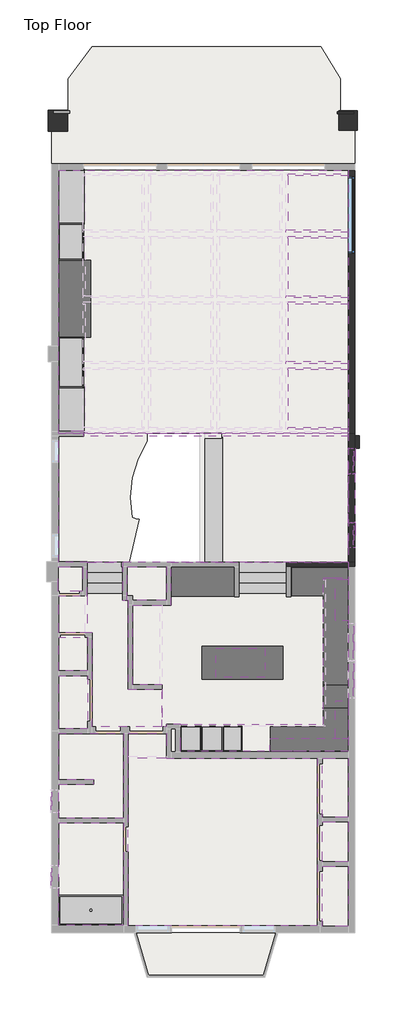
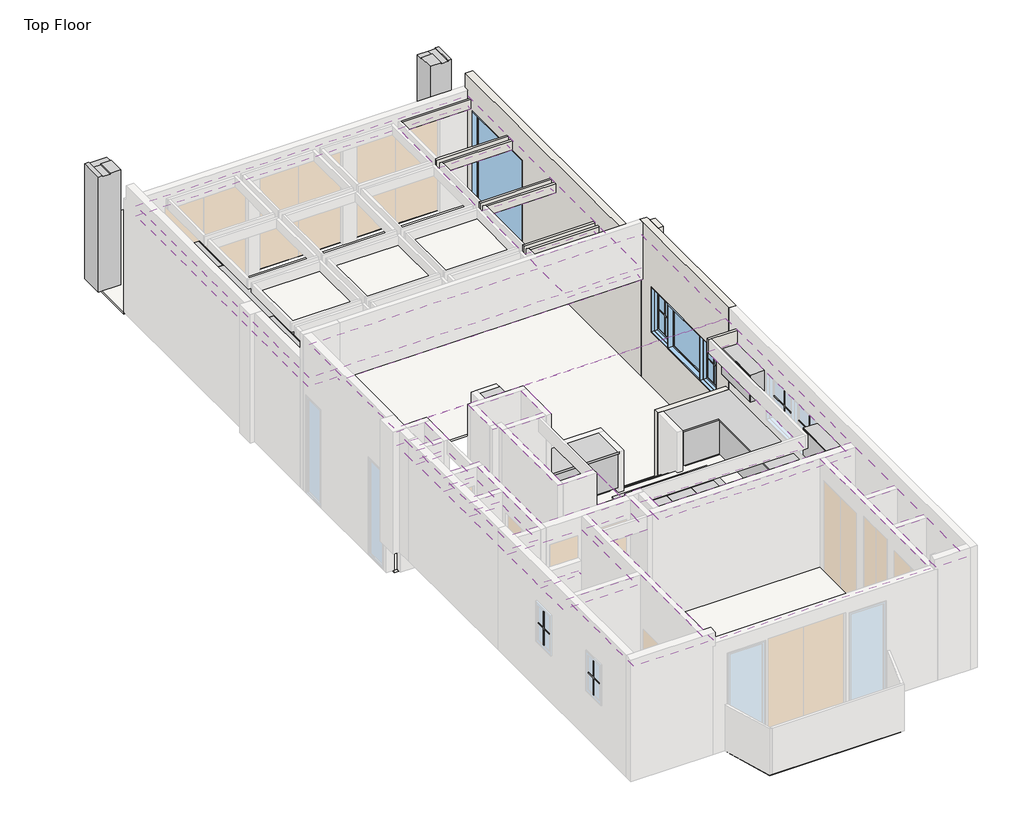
# One storey, part 3 of 3: 21 coverings, 16 walls, 15 proxies, 8 furniture elements, 4 slabs, 4 windows, 2 columns, 2 stair flights, 1 flow terminal.
"""IFC4 building model written with IfcOpenShell, lengths in millimetres."""

from ifc_helpers import new_model, si_unit, point, frame, frame_2d, origin, place, context, project, spatial, polyline, circle_curve, trimmed, segment, composite_curve, outline, extrude, faceted_brep, transform, mapped, element, save
from components import countertop_rectangle_shape_base_default_1_742723e2, countertop_rectangle_shape_base_default_1_a7bd4f21, countertop_rectangle_shape_base_default_1_6818d92f, countertop_rectangle_shape_base_default_1_848e0110, countertop_rectangle_shape_base_default_1_92f88228, default_1_19c50d5e, fireplace_default_1_2b660472, muntin_pattern_2x2_muntin_pattern_2x2_64ee3ad5, muntin_pattern_2x2_muntin_pattern_2x2_6aee78e4, muntin_pattern_2x2_muntin_pattern_2x2_3aa5df5f, muntin_pattern_2x2_muntin_pattern_2x2_c450b4c2, muntin_pattern_2x2_muntin_pattern_2x2_5e50c346, muntin_pattern_2x2_muntin_pattern_2x2_3e21365d, other_under_default_1_f665ae8c, bath_shower_basin_rectangular_default_1_3c0a1b38, tall_cabinet_double_door_4_default_1_916294eb, tall_cabinet_double_door_4_default_1_13441492, furniture_af66c6f2, furniture_41f67e13, furniture_ce4d81af, furniture_f03ed958, furniture_9a3261b4, furniture_3d8370f3, stair_flight_50mm_tread_25mm_nosing_13mm_riser_6de5a301, stair_flight_50mm_tread_25mm_nosing_13mm_riser_3adddc06, default_1_c63afb6d, default_1_3ebde05d, default_1_07854831, default_1_82db3804

model = new_model("IFC4")

# Units and contexts
model_context = context("Model", 3, world=origin())
ifc_project = project(units=[si_unit("LENGTHUNIT", "METRE", prefix="MILLI")], contexts=[model_context])

# Site, building, storey
site = spatial("IfcSite", under=ifc_project)
building = spatial("IfcBuilding", under=site)
storey = spatial("IfcBuildingStorey", under=building, Name="Top Floor", Elevation=2743.2)

# Proxies
placement = place(None, origin())
countertop_rectangle_shape_base_default_1_shape = countertop_rectangle_shape_base_default_1_742723e2(model_context)
element("IfcBuildingElementProxy", 1, Name="Countertop- Rectangle shape base : Default 1", ObjectType="Countertop- Rectangle shape base : Default 1", at=placement, inside=storey, context=model_context, shape_type="MappedRepresentation", body=[
    mapped(countertop_rectangle_shape_base_default_1_shape, transform((-3197.225, 2781.3, 3505.2), x_axis=(1.0, 0.0, 0.0), y_axis=(0.0, 1.0, 0.0), z_axis=(0.0, 0.0, 1.0))),
])
countertop_rectangle_shape_base_default_1_2_shape = countertop_rectangle_shape_base_default_1_a7bd4f21(model_context)
element("IfcBuildingElementProxy", 2, Name="Countertop- Rectangle shape base : Default 1", ObjectType="Countertop- Rectangle shape base : Default 1", at=placement, inside=storey, context=model_context, shape_type="MappedRepresentation", body=[
    mapped(countertop_rectangle_shape_base_default_1_2_shape, transform((-1800.225, 4378.325, 2743.2), x_axis=(0.0, 1.0, 0.0), y_axis=(-1.0, 0.0, 0.0), z_axis=(0.0, 0.0, 1.0))),
])
countertop_rectangle_shape_base_default_1_3_shape = countertop_rectangle_shape_base_default_1_6818d92f(model_context)
element("IfcBuildingElementProxy", 3, Name="Countertop- Rectangle shape base : Default 1", ObjectType="Countertop- Rectangle shape base : Default 1", at=placement, inside=storey, context=model_context, shape_type="MappedRepresentation", body=[
    mapped(countertop_rectangle_shape_base_default_1_3_shape, transform((-2228.85, 803.275, 3505.2), x_axis=(1.0, 0.0, 0.0), y_axis=(0.0, 1.0, 0.0), z_axis=(0.0, 0.0, 1.0))),
])
countertop_rectangle_shape_base_default_1_4_shape = countertop_rectangle_shape_base_default_1_848e0110(model_context)
element("IfcBuildingElementProxy", 4, Name="Countertop- Rectangle shape base : Default 1", ObjectType="Countertop- Rectangle shape base : Default 1", at=placement, inside=storey, context=model_context, shape_type="MappedRepresentation", body=[
    mapped(countertop_rectangle_shape_base_default_1_4_shape, transform((-5264.15, 11760.2, 2743.2), x_axis=(0.0, 1.0, 0.0), y_axis=(-1.0, 0.0, 0.0), z_axis=(0.0, 0.0, 1.0))),
])
countertop_rectangle_shape_base_default_1_5_shape = countertop_rectangle_shape_base_default_1_92f88228(model_context)
element("IfcBuildingElementProxy", 5, Name="Countertop- Rectangle shape base : Default 1", ObjectType="Countertop- Rectangle shape base : Default 1", at=placement, inside=storey, context=model_context, shape_type="MappedRepresentation", body=[
    mapped(countertop_rectangle_shape_base_default_1_5_shape, transform((-5264.15, 6584.95, 2743.2), x_axis=(0.0, 1.0, 0.0), y_axis=(-1.0, 0.0, 0.0), z_axis=(0.0, 0.0, 1.0))),
])
element("IfcBuildingElementProxy", 6, Name="Countertop- U Shape base : Default 1", ObjectType="Countertop- U Shape base : Default 1", at=placement, inside=storey, context=model_context, shape_type="SweptSolid", body=[
    extrude(outline(polyline([(1136.65, -977.9), (-800.7463, -977.9), (-800.7463, -361.95), (482.6, -361.95), (482.6, 2794.0), (-285.75, 2794.0), (-285.75, 3517.9), (1136.65, 3517.9), (1136.65, -977.9)])), frame((0.0, 0.0, 4381.5), z_axis=(0.0, 0.0, 1.0), x_axis=(1.0, 0.0, 0.0)), (0.0, 0.0, 1.0), 38.1),
    extrude(outline(polyline([(-680.0963, -457.3545837), (603.25, -457.3545837), (603.25, 2914.65), (-165.1, 2914.65), (-165.1, 3397.25), (996.95, 3397.25), (996.95, -857.25), (-680.0963, -857.25), (-680.0963, -457.3545837)])), frame((0.0, 0.0, 3505.2), z_axis=(0.0, 0.0, 1.0), x_axis=(1.0, 0.0, 0.0)), (0.0, 0.0, 1.0), 101.6),
    extrude(outline(polyline([(501.65, 2813.05), (-266.7, 2813.05), (-266.7, 3498.85), (1098.55, 3498.85), (1098.55, -958.85), (-781.6963, -958.85), (-781.6963, -381.0), (501.65, -381.0), (501.65, 2813.05)])), frame((0.0, 0.0, 3606.8), z_axis=(0.0, 0.0, 1.0), x_axis=(1.0, 0.0, 0.0)), (0.0, 0.0, 1.0), 774.7),
])
default_1_shape = default_1_19c50d5e(model_context)
element("IfcBuildingElementProxy", 7, Name="Stovetop 8 : Default 1", ObjectType="Stovetop 8 : Default 1", at=placement, inside=storey, context=model_context, shape_type="MappedRepresentation", body=[
    mapped(default_1_shape, transform((-1517.687089, 1532.558106, 3505.2), x_axis=(1.0, 0.0, 0.0), y_axis=(0.0, 1.0, 0.0), z_axis=(0.0, 0.0, 1.0))),
])
fireplace_default_1_shape = fireplace_default_1_2b660472(model_context)
element("IfcBuildingElementProxy", 8, Name="Fireplace : Default 1", ObjectType="Fireplace : Default 1", at=placement, inside=storey, context=model_context, shape_type="MappedRepresentation", body=[
    mapped(fireplace_default_1_shape, transform((-6049.95, 10042.525, 2743.2), x_axis=(0.0, 1.0, 0.0), y_axis=(-1.0, 0.0, 0.0), z_axis=(0.0, 0.0, 1.0))),
])
muntin_pattern_2x2_muntin_pattern_2x2_shape = muntin_pattern_2x2_muntin_pattern_2x2_64ee3ad5(model_context)
element("IfcBuildingElementProxy", 9, Name="Muntin Pattern_2x2 : Muntin Pattern_2x2", ObjectType="Muntin Pattern_2x2 : Muntin Pattern_2x2", at=placement, inside=storey, context=model_context, shape_type="MappedRepresentation", body=[
    mapped(muntin_pattern_2x2_muntin_pattern_2x2_shape, transform((1260.475, 4287.2421875, 4032.25), x_axis=(0.0, 1.0, 0.0), y_axis=(-1.0, 0.0, 0.0), z_axis=(0.0, 0.0, 1.0))),
])
muntin_pattern_2x2_muntin_pattern_2x2_2_shape = muntin_pattern_2x2_muntin_pattern_2x2_6aee78e4(model_context)
element("IfcBuildingElementProxy", 10, Name="Muntin Pattern_2x2 : Muntin Pattern_2x2", ObjectType="Muntin Pattern_2x2 : Muntin Pattern_2x2", at=placement, inside=storey, context=model_context, shape_type="MappedRepresentation", body=[
    mapped(muntin_pattern_2x2_muntin_pattern_2x2_2_shape, transform((-6105.525, -4025.9, 4641.85), x_axis=(0.0, 1.0, 0.0), y_axis=(-1.0, 0.0, 0.0), z_axis=(0.0, 0.0, 1.0))),
])
muntin_pattern_2x2_muntin_pattern_2x2_3_shape = muntin_pattern_2x2_muntin_pattern_2x2_3aa5df5f(model_context)
element("IfcBuildingElementProxy", 11, Name="Muntin Pattern_2x2 : Muntin Pattern_2x2", ObjectType="Muntin Pattern_2x2 : Muntin Pattern_2x2", at=placement, inside=storey, context=model_context, shape_type="MappedRepresentation", body=[
    mapped(muntin_pattern_2x2_muntin_pattern_2x2_3_shape, transform((-6105.525, -2184.4, 4641.85), x_axis=(0.0, -1.0, 0.0), y_axis=(1.0, 0.0, 0.0), z_axis=(0.0, 0.0, 1.0))),
])
muntin_pattern_2x2_muntin_pattern_2x2_4_shape = muntin_pattern_2x2_muntin_pattern_2x2_c450b4c2(model_context)
element("IfcBuildingElementProxy", 12, Name="Muntin Pattern_2x2 : Muntin Pattern_2x2", ObjectType="Muntin Pattern_2x2 : Muntin Pattern_2x2", at=placement, inside=storey, context=model_context, shape_type="MappedRepresentation", body=[
    mapped(muntin_pattern_2x2_muntin_pattern_2x2_4_shape, transform((1260.475, 6092.825, 4032.25), x_axis=(0.0, -1.0, 0.0), y_axis=(1.0, 0.0, 0.0), z_axis=(0.0, 0.0, 1.0))),
])
muntin_pattern_2x2_muntin_pattern_2x2_5_shape = muntin_pattern_2x2_muntin_pattern_2x2_5e50c346(model_context)
element("IfcBuildingElementProxy", 13, Name="Muntin Pattern_2x2 : Muntin Pattern_2x2", ObjectType="Muntin Pattern_2x2 : Muntin Pattern_2x2", at=placement, inside=storey, context=model_context, shape_type="MappedRepresentation", body=[
    mapped(muntin_pattern_2x2_muntin_pattern_2x2_5_shape, transform((1260.475, 770.1359375, 4641.85), x_axis=(0.0, 1.0, 0.0), y_axis=(-1.0, 0.0, 0.0), z_axis=(0.0, 0.0, 1.0))),
])
muntin_pattern_2x2_muntin_pattern_2x2_6_shape = muntin_pattern_2x2_muntin_pattern_2x2_3e21365d(model_context)
element("IfcBuildingElementProxy", 14, Name="Muntin Pattern_2x2 : Muntin Pattern_2x2", ObjectType="Muntin Pattern_2x2 : Muntin Pattern_2x2", at=placement, inside=storey, context=model_context, shape_type="MappedRepresentation", body=[
    mapped(muntin_pattern_2x2_muntin_pattern_2x2_6_shape, transform((1260.475, 1684.5359375, 4641.85), x_axis=(0.0, -1.0, 0.0), y_axis=(1.0, 0.0, 0.0), z_axis=(0.0, 0.0, 1.0))),
])
other_under_default_1_shape = other_under_default_1_f665ae8c(model_context)
element("IfcBuildingElementProxy", 15, Name="Other_Under : Default 1", ObjectType="Other_Under : Default 1", at=placement, inside=storey, context=model_context, shape_type="MappedRepresentation", body=[
    mapped(other_under_default_1_shape, transform((801.65, 732.0588824, 3505.2), x_axis=(1.0, 0.0, 0.0), y_axis=(0.0, 1.0, 0.0), z_axis=(0.0, 0.0, 1.0))),
])

# Columns
element("IfcColumn", 16, ObjectType="Rectangular Column 3D : Default 1", at=placement, inside=storey, context=model_context, shape_type="Brep", body=[
    faceted_brep([(-5727.3558119, 14116.05, 5334.0), (-5727.3558119, 14471.65, 5334.0), (-5949.95, 14471.65, 5334.0), (-5949.95, 14116.05, 5334.0), (-5727.3558119, 14116.05, 2743.2), (-6203.95, 14116.05, 2743.2), (-6203.95, 14624.05, 2743.2), (-5727.3558119, 14624.05, 2743.2), (-5727.3558119, 14611.35, 2743.2), (-6064.25, 14611.35, 2743.2), (-6064.25, 14560.55, 2743.2), (-5727.3558119, 14560.55, 2743.2), (-6203.95, 14624.05, 5334.0), (-6115.05, 14624.05, 5334.0), (-6115.05, 14624.05, 5308.6), (-5727.3558119, 14624.05, 5308.6), (-6203.95, 14116.05, 5334.0), (-5949.95, 14116.05, 5308.6), (-6115.05, 14116.05, 5308.6), (-6115.05, 14116.05, 5334.0), (-5727.3558119, 14560.55, 3962.4), (-5727.3558119, 14611.35, 3962.4), (-5727.3558119, 14471.65, 5308.6), (-5949.95, 14471.65, 5308.6), (-6115.05, 14471.65, 5308.6), (-6115.05, 14471.65, 5334.0), (-6064.25, 14560.55, 3962.4), (-6064.25, 14611.35, 3962.4)], [[[0, 1, 2, 3]], [[4, 5, 6, 7, 8, 9, 10, 11]], [[7, 6, 12, 13, 14, 15]], [[16, 12, 6, 5]], [[5, 4, 0, 3, 17, 18, 19, 16]], [[0, 4, 11, 20, 21, 8, 7, 15, 22, 1]], [[1, 22, 23, 2]], [[14, 24, 23, 22, 15]], [[24, 14, 13, 25]], [[23, 17, 3, 2]], [[18, 24, 25, 19]], [[17, 23, 24, 18]], [[12, 16, 19, 25, 13]], [[10, 26, 20, 11]], [[27, 9, 8, 21]], [[26, 27, 21, 20]], [[26, 10, 9, 27]]]),
])
element("IfcColumn", 17, ObjectType="Rectangular Column 3D : Default 1", at=placement, inside=storey, context=model_context, shape_type="Brep", body=[
    faceted_brep([(1336.278125, 14147.8, 5334.0), (1336.278125, 14616.8265686, 5334.0), (1270.0, 14616.8265686, 5334.0), (1270.0, 14147.8, 5334.0), (1336.278125, 14616.8265686, 2743.2), (1336.278125, 14147.8, 2743.2), (882.65, 14147.8, 2743.2), (882.65, 14541.5, 2743.2), (1244.6, 14541.5, 2743.2), (1244.6, 14592.3, 2743.2), (882.65, 14592.3, 2743.2), (882.65, 14616.8265686, 2743.2), (882.65, 14616.8265686, 5308.6), (1117.6, 14616.8265686, 5308.6), (1270.0, 14616.8265686, 5308.6), (882.65, 14147.8, 5334.0), (882.65, 14471.65, 5334.0), (882.65, 14471.65, 5308.6), (882.65, 14592.3, 3962.4), (882.65, 14541.5, 3962.4), (1270.0, 14147.8, 5308.6), (1117.6, 14147.8, 5308.6), (1117.6, 14147.8, 5334.0), (1117.6, 14471.65, 5308.6), (1117.6, 14471.65, 5334.0), (1244.6, 14541.5, 3962.4), (1244.6, 14592.3, 3962.4)], [[[0, 1, 2, 3]], [[4, 5, 6, 7, 8, 9, 10, 11]], [[4, 11, 12, 13, 14, 2, 1]], [[6, 15, 16, 17, 12, 11, 10, 18, 19, 7]], [[6, 5, 0, 3, 20, 21, 22, 15]], [[1, 0, 5, 4]], [[14, 20, 3, 2]], [[22, 21, 23, 24]], [[20, 14, 13, 23, 21]], [[23, 17, 16, 24]], [[17, 23, 13, 12]], [[25, 8, 7, 19]], [[9, 26, 18, 10]], [[26, 25, 19, 18]], [[8, 25, 26, 9]], [[16, 15, 22, 24]]]),
])

# Coverings
element("IfcCovering", 18, ObjectType="1/2\" Ceiling", at=placement, inside=storey, context=model_context, shape_type="SweptSolid", body=[
    extrude(outline(polyline([(-5949.95, 13169.9), (1117.6, 13169.9), (1117.6, 6762.75), (-5949.95, 6762.75), (-5949.95, 13169.9)])), frame((0.0, 0.0, 5181.6), z_axis=(0.0, 0.0, 1.0), x_axis=(1.0, 0.0, 0.0)), (0.0, 0.0, 1.0), 12.7),
])
element("IfcCovering", 19, ObjectType="1/2\" Ceiling", at=placement, inside=storey, context=model_context, shape_type="SweptSolid", body=[
    extrude(outline(polyline([(-5949.95, 6762.75), (1117.6, 6762.75), (1117.6, 3632.2), (-5949.95, 3632.2), (-5949.95, 6762.75)])), frame((0.0, 0.0, 5943.6), z_axis=(0.0, 0.0, 1.0), x_axis=(1.0, 0.0, 0.0)), (0.0, 0.0, 1.0), 12.7),
])
element("IfcCovering", 20, ObjectType="1/2\" Ceiling", at=placement, inside=storey, context=model_context, shape_type="SweptSolid", body=[
    extrude(outline(polyline([(-4387.85, 3632.2), (-4387.85, 2698.75), (-4254.5, 2698.75), (-4254.5, 533.4), (-3429.0, 533.4), (-3429.0, -374.65), (-5124.45, -374.65), (-5124.45, 1917.7), (-5949.95, 1917.7), (-5949.95, 2813.05), (-5251.45, 2813.05), (-5251.45, 3632.2), (-4387.85, 3632.2)])), frame((0.0, 0.0, 5943.6), z_axis=(0.0, 0.0, 1.0), x_axis=(1.0, 0.0, 0.0)), (0.0, 0.0, 1.0), 12.7),
])
element("IfcCovering", 21, ObjectType="1/2\" Ceiling", at=placement, inside=storey, context=model_context, shape_type="SweptSolid", body=[
    extrude(outline(polyline([(-3206.75, 3632.2), (1117.6, 3632.2), (1117.6, -977.9), (-2978.15, -977.9), (-2978.15, -311.15), (-3321.05, -311.15), (-3321.05, -374.65), (-3429.0, -374.65), (-3429.0, 647.7), (-4140.2, 647.7), (-4140.2, 2584.45), (-3206.75, 2584.45), (-3206.75, 3632.2)])), frame((0.0, 0.0, 5943.6), z_axis=(0.0, 0.0, 1.0), x_axis=(1.0, 0.0, 0.0)), (0.0, 0.0, 1.0), 12.7),
])
element("IfcCovering", 22, ObjectType="1/2\" Ceiling", at=placement, inside=storey, context=model_context, shape_type="SweptSolid", body=[
    extrude(outline(polyline([(-4273.55, 2698.75), (-4273.55, 3517.9), (-3321.05, 3517.9), (-3321.05, 2698.75), (-4273.55, 2698.75)])), frame((0.0, 0.0, 5943.6), z_axis=(0.0, 0.0, 1.0), x_axis=(1.0, 0.0, 0.0)), (0.0, 0.0, 1.0), 12.7),
])
element("IfcCovering", 23, ObjectType="1/2\" Ceiling", at=placement, inside=storey, context=model_context, shape_type="SweptSolid", body=[
    extrude(outline(polyline([(-5962.65, 2927.35), (-5962.65, 3524.25), (-5365.75, 3524.25), (-5365.75, 2927.35), (-5962.65, 2927.35)])), frame((0.0, 0.0, 5943.6), z_axis=(0.0, 0.0, 1.0), x_axis=(1.0, 0.0, 0.0)), (0.0, 0.0, 1.0), 12.7),
])
element("IfcCovering", 24, ObjectType="1/2\" Ceiling", at=placement, inside=storey, context=model_context, shape_type="SweptSolid", body=[
    extrude(outline(polyline([(-5238.75, 984.25), (-5949.95, 984.25), (-5949.95, 1803.4), (-5238.75, 1803.4), (-5238.75, 984.25)])), frame((0.0, 0.0, 5943.6), z_axis=(0.0, 0.0, 1.0), x_axis=(1.0, 0.0, 0.0)), (0.0, 0.0, 1.0), 12.7),
])
element("IfcCovering", 25, ObjectType="1/2\" Ceiling", at=placement, inside=storey, context=model_context, shape_type="SweptSolid", body=[
    extrude(outline(polyline([(-5238.75, -425.45), (-5949.95, -425.45), (-5949.95, 869.95), (-5238.75, 869.95), (-5238.75, -425.45)])), frame((0.0, 0.0, 5943.6), z_axis=(0.0, 0.0, 1.0), x_axis=(1.0, 0.0, 0.0)), (0.0, 0.0, 1.0), 12.7),
])
element("IfcCovering", 26, ObjectType="1/2\" Ceiling", at=placement, inside=storey, context=model_context, shape_type="SweptSolid", body=[
    extrude(outline(polyline([(-4368.8, -2603.5), (-5949.95, -2603.5), (-5949.95, -1778.0), (-5092.7, -1778.0), (-5092.7, -1663.7), (-5949.95, -1663.7), (-5949.95, -539.75), (-5181.6, -539.75), (-4368.8, -539.75), (-4368.8, -2603.5)])), frame((0.0, 0.0, 5638.8), z_axis=(0.0, 0.0, 1.0), x_axis=(1.0, 0.0, 0.0)), (0.0, 0.0, 1.0), 12.7),
])
element("IfcCovering", 27, ObjectType="1/2\" Ceiling", at=placement, inside=storey, context=model_context, shape_type="SweptSolid", body=[
    extrude(outline(polyline([(-5949.95, -5207.0), (-5949.95, -2717.8), (-4368.8, -2717.8), (-4368.8, -5207.0), (-5949.95, -5207.0)])), frame((0.0, 0.0, 5943.6), z_axis=(0.0, 0.0, 1.0), x_axis=(1.0, 0.0, 0.0)), (0.0, 0.0, 1.0), 12.7),
])
element("IfcCovering", 28, ObjectType="1/2\" Ceiling", at=placement, inside=storey, context=model_context, shape_type="SweptSolid", body=[
    extrude(outline(polyline([(-3321.05, -539.75), (-3321.05, -1143.0), (361.95, -1143.0), (361.95, -5219.7), (-4254.5, -5219.7), (-4254.5, -539.75), (-3321.05, -539.75)])), frame((0.0, 0.0, 5943.6), z_axis=(0.0, 0.0, 1.0), x_axis=(1.0, 0.0, 0.0)), (0.0, 0.0, 1.0), 12.7),
])
element("IfcCovering", 29, ObjectType="1/2\" Ceiling", at=placement, inside=storey, context=model_context, shape_type="SweptSolid", body=[
    extrude(outline(polyline([(476.25, -1143.0), (1117.6, -1143.0), (1117.6, -2578.1), (476.25, -2578.1), (476.25, -1143.0)])), frame((0.0, 0.0, 5943.6), z_axis=(0.0, 0.0, 1.0), x_axis=(1.0, 0.0, 0.0)), (0.0, 0.0, 1.0), 12.7),
])
element("IfcCovering", 30, ObjectType="1/2\" Ceiling", at=placement, inside=storey, context=model_context, shape_type="SweptSolid", body=[
    extrude(outline(polyline([(1117.6, -2692.4), (1117.6, -3657.6), (476.25, -3657.6), (476.25, -2692.4), (1117.6, -2692.4)])), frame((0.0, 0.0, 5943.6), z_axis=(0.0, 0.0, 1.0), x_axis=(1.0, 0.0, 0.0)), (0.0, 0.0, 1.0), 12.7),
])
element("IfcCovering", 31, ObjectType="1/2\" Ceiling", at=placement, inside=storey, context=model_context, shape_type="SweptSolid", body=[
    extrude(outline(polyline([(1117.6, -5232.4), (476.25, -5232.4), (476.25, -3771.9), (1117.6, -3771.9), (1117.6, -5232.4)])), frame((0.0, 0.0, 5943.6), z_axis=(0.0, 0.0, 1.0), x_axis=(1.0, 0.0, 0.0)), (0.0, 0.0, 1.0), 12.7),
])
element("IfcCovering", 32, ObjectType="1/2\" Ceiling", at=placement, inside=storey, context=model_context, shape_type="SweptSolid", body=[
    extrude(outline(polyline([(-3429.0, 2584.45), (-3429.0, 647.7), (-4140.2, 647.7), (-4140.2, 2584.45), (-3429.0, 2584.45)])), frame((0.0, 0.0, 5638.8), z_axis=(0.0, 0.0, 1.0), x_axis=(1.0, 0.0, 0.0)), (0.0, 0.0, 1.0), 12.7),
    extrude(outline(polyline([(-2978.15, -311.15), (501.65, -311.15), (501.65, 3254.6188419), (1117.6, 3254.6188419), (1117.6, -977.9), (-2978.15, -977.9), (-2978.15, -311.15)])), frame((0.0, 0.0, 5638.8), z_axis=(0.0, 0.0, 1.0), x_axis=(1.0, 0.0, 0.0)), (0.0, 0.0, 1.0), 12.7),
])
element("IfcCovering", 33, ObjectType="1/2\" Ceiling", at=placement, inside=storey, context=model_context, shape_type="SweptSolid", body=[
    extrude(outline(polyline([(1117.6, 8312.15), (-355.6, 8312.15), (-355.6, 6915.15), (1117.6, 6915.15), (1117.6, 6699.25), (-5340.35, 6699.25), (-5340.35, 6813.55), (-5949.95, 6813.55), (-5949.95, 13169.9), (1117.6, 13169.9), (1117.6, 13036.55), (-355.6, 13036.55), (-355.6, 11715.75), (1117.6, 11715.75), (1117.6, 11512.55), (-355.6, 11512.55), (-355.6, 10115.55), (1117.6, 10115.55), (1117.6, 9912.35), (-355.6, 9912.35), (-355.6, 8515.35), (1117.6, 8515.35), (1117.6, 8312.15)]), holes=[polyline([(-3911.6, 6915.15), (-3911.6, 8312.15), (-5295.9, 8312.15), (-5295.9, 6915.15), (-3911.6, 6915.15)]), polyline([(-3911.6, 8515.35), (-3911.6, 9912.35), (-5295.9, 9912.35), (-5295.9, 8515.35), (-3911.6, 8515.35)]), polyline([(-3911.6, 10115.55), (-3911.6, 11512.55), (-5295.9, 11512.55), (-5295.9, 10115.55), (-3911.6, 10115.55)]), polyline([(-3911.6, 11715.75), (-3911.6, 13036.55), (-5295.9, 13036.55), (-5295.9, 11715.75), (-3911.6, 11715.75)]), polyline([(-558.8, 8312.15), (-2032.0, 8312.15), (-2032.0, 6915.15), (-558.8, 6915.15), (-558.8, 8312.15)]), polyline([(-2235.2, 8312.15), (-3708.4, 8312.15), (-3708.4, 6915.15), (-2235.2, 6915.15), (-2235.2, 8312.15)]), polyline([(-558.8, 13036.55), (-2032.0, 13036.55), (-2032.0, 11715.75), (-558.8, 11715.75), (-558.8, 13036.55)]), polyline([(-2235.2, 13036.55), (-3708.4, 13036.55), (-3708.4, 11715.75), (-2235.2, 11715.75), (-2235.2, 13036.55)]), polyline([(-558.8, 9912.35), (-2032.0, 9912.35), (-2032.0, 8515.35), (-558.8, 8515.35), (-558.8, 9912.35)]), polyline([(-558.8, 11512.55), (-2032.0, 11512.55), (-2032.0, 10115.55), (-558.8, 10115.55), (-558.8, 11512.55)]), polyline([(-2235.2, 9912.35), (-3708.4, 9912.35), (-3708.4, 8515.35), (-2235.2, 8515.35), (-2235.2, 9912.35)]), polyline([(-2235.2, 11512.55), (-3708.4, 11512.55), (-3708.4, 10115.55), (-2235.2, 10115.55), (-2235.2, 11512.55)])]), frame((0.0, 0.0, 4953.0), z_axis=(0.0, 0.0, 1.0), x_axis=(1.0, 0.0, 0.0)), (0.0, 0.0, 1.0), 12.7),
])
element("IfcCovering", 34, ObjectType="1/2\" Ceiling", at=placement, inside=storey, context=model_context, shape_type="SweptSolid", body=[
    extrude(outline(polyline([(-4254.5, -1143.0), (-4254.5, -539.75), (-3321.05, -539.75), (-3321.05, -1143.0), (-4254.5, -1143.0)])), frame((0.0, 0.0, 5638.8), z_axis=(0.0, 0.0, 1.0), x_axis=(1.0, 0.0, 0.0)), (0.0, 0.0, 1.0), 12.7),
])
element("IfcCovering", 35, ObjectType="1/2\" Ceiling", at=placement, inside=storey, context=model_context, shape_type="SweptSolid", body=[
    extrude(outline(polyline([(-5949.95, 2813.05), (-5251.45, 2813.05), (-5251.45, 1917.7), (-5949.95, 1917.7), (-5949.95, 2813.05)])), frame((0.0, 0.0, 5638.8), z_axis=(0.0, 0.0, 1.0), x_axis=(1.0, 0.0, 0.0)), (0.0, 0.0, 1.0), 12.7),
])
element("IfcCovering", 36, ObjectType="1/2\" Ceiling", at=placement, inside=storey, context=model_context, shape_type="SweptSolid", body=[
    extrude(outline(polyline([(-5238.75, -425.45), (-5949.95, -425.45), (-5949.95, 869.95), (-5238.75, 869.95), (-5238.75, -425.45)])), frame((0.0, 0.0, 5638.8), z_axis=(0.0, 0.0, 1.0), x_axis=(1.0, 0.0, 0.0)), (0.0, 0.0, 1.0), 12.7),
])
element("IfcCovering", 37, ObjectType="1/2\" Ceiling", at=placement, inside=storey, context=model_context, shape_type="SweptSolid", body=[
    extrude(outline(polyline([(-5238.75, 984.25), (-5949.95, 984.25), (-5949.95, 1803.4), (-5238.75, 1803.4), (-5238.75, 984.25)])), frame((0.0, 0.0, 5638.8), z_axis=(0.0, 0.0, 1.0), x_axis=(1.0, 0.0, 0.0)), (0.0, 0.0, 1.0), 12.7),
])
element("IfcCovering", 38, ObjectType="1/2\" Ceiling", at=placement, inside=storey, context=model_context, shape_type="SweptSolid", body=[
    extrude(outline(polyline([(-5962.65, 2927.35), (-5962.65, 3524.25), (-5365.75, 3524.25), (-5365.75, 2927.35), (-5962.65, 2927.35)])), frame((0.0, 0.0, 5638.8), z_axis=(0.0, 0.0, 1.0), x_axis=(1.0, 0.0, 0.0)), (0.0, 0.0, 1.0), 12.7),
])

# Flow terminal
bath_shower_basin_rectangular_default_1_shape = bath_shower_basin_rectangular_default_1_3c0a1b38(model_context)
element("IfcFlowTerminal", 39, ObjectType="Bath- Shower - Basin Rectangular : Default 1", at=placement, inside=storey, context=model_context, shape_type="MappedRepresentation", body=[
    mapped(bath_shower_basin_rectangular_default_1_shape, transform((-5159.375, -4838.7, 3505.2), x_axis=(1.0, 0.0, 0.0), y_axis=(0.0, 1.0, 0.0), z_axis=(0.0, 0.0, 1.0))),
])

# Furniture
tall_cabinet_double_door_4_default_1_shape = tall_cabinet_double_door_4_default_1_916294eb(model_context)
element("IfcFurniture", 40, ObjectType="Tall Cabinet-Double Door(4) : Default 1", at=placement, inside=storey, context=model_context, shape_type="MappedRepresentation", body=[
    mapped(tall_cabinet_double_door_4_default_1_shape, transform((-5949.95, 8474.3872951, 2743.2), x_axis=(0.0, 1.0, 0.0), y_axis=(-1.0, 0.0, 0.0), z_axis=(0.0, 0.0, 1.0))),
])
tall_cabinet_double_door_4_default_1_2_shape = tall_cabinet_double_door_4_default_1_13441492(model_context)
element("IfcFurniture", 41, ObjectType="Tall Cabinet-Double Door(4) : Default 1", at=placement, inside=storey, context=model_context, shape_type="MappedRepresentation", body=[
    mapped(tall_cabinet_double_door_4_default_1_2_shape, transform((-5949.95, 11408.0872951, 2743.2), x_axis=(0.0, 1.0, 0.0), y_axis=(-1.0, 0.0, 0.0), z_axis=(0.0, 0.0, 1.0))),
])
furniture_shape = furniture_af66c6f2(model_context)
element("IfcFurniture", 42, ObjectType="Tall Cabinet-Single Door(2) : 15\"", at=placement, inside=storey, context=model_context, shape_type="MappedRepresentation", body=[
    mapped(furniture_shape, transform((-2703.2363572, -977.9, 3505.2), x_axis=(-1.0, 0.0, 0.0), y_axis=(0.0, -1.0, 0.0), z_axis=(0.0, 0.0, 1.0))),
])
furniture_2_shape = furniture_41f67e13(model_context)
element("IfcFurniture", 43, ObjectType="Tall Cabinet-Single Door(2) : 15\"", at=placement, inside=storey, context=model_context, shape_type="MappedRepresentation", body=[
    mapped(furniture_2_shape, transform((-1689.5219928, -977.9, 3505.2), x_axis=(-1.0, 0.0, 0.0), y_axis=(0.0, -1.0, 0.0), z_axis=(0.0, 0.0, 1.0))),
])
furniture_3_shape = furniture_ce4d81af(model_context)
element("IfcFurniture", 44, ObjectType="Tall Cabinet-Single Door(2) : 15\"", at=placement, inside=storey, context=model_context, shape_type="MappedRepresentation", body=[
    mapped(furniture_3_shape, transform((-2185.7113572, -977.9, 3505.2), x_axis=(-1.0, 0.0, 0.0), y_axis=(0.0, -1.0, 0.0), z_axis=(0.0, 0.0, 1.0))),
])
furniture_4_shape = furniture_f03ed958(model_context)
element("IfcFurniture", 45, ObjectType="Upper Cabinet-Single Door-Wall : 12\"", at=placement, inside=storey, context=model_context, shape_type="MappedRepresentation", body=[
    mapped(furniture_4_shape, transform((858.8214773, -1060.45, 3505.2), x_axis=(1.0, 0.0, 0.0), y_axis=(0.0, 1.0, 0.0), z_axis=(0.0, 0.0, 1.0))),
])
furniture_5_shape = furniture_9a3261b4(model_context)
element("IfcFurniture", 46, ObjectType="Upper Cabinet-Single Door-Wall : 12\"", at=placement, inside=storey, context=model_context, shape_type="MappedRepresentation", body=[
    mapped(furniture_5_shape, transform((1193.8, -4.1364016, 3505.2), x_axis=(0.0, 1.0, 0.0), y_axis=(-1.0, 0.0, 0.0), z_axis=(0.0, 0.0, 1.0))),
])
furniture_6_shape = furniture_3d8370f3(model_context)
element("IfcFurniture", 47, ObjectType="Upper Cabinet-Single Door-Wall : 12\"", at=placement, inside=storey, context=model_context, shape_type="MappedRepresentation", body=[
    mapped(furniture_6_shape, transform((1193.8, 2996.2476791, 3505.2), x_axis=(0.0, 1.0, 0.0), y_axis=(-1.0, 0.0, 0.0), z_axis=(0.0, 0.0, 1.0))),
])

# Slabs
element("IfcSlab", 48, ObjectType="Ledge - 2\"", at=placement, inside=storey, context=model_context, shape_type="SweptSolid", body=[
    extrude(outline(polyline([(-5251.45, 3524.25), (-5251.45, 2857.5), (-4387.85, 2857.5), (-4387.85, 3524.25), (-1663.7, 3524.25), (-1663.7, 2857.4922485), (-285.75, 2857.4922485), (-285.75, 3524.25), (1117.6, 3524.25), (1117.6, -5232.4), (-5962.65, -5232.4), (-5962.65, 3524.25), (-5251.45, 3524.25)])), frame((0.0, 0.0, 3454.4), z_axis=(0.0, 0.0, 1.0), x_axis=(1.0, 0.0, 0.0)), (0.0, 0.0, 1.0), 50.8),
])
element("IfcSlab", 49, ObjectType="Ledge - 2\"", at=placement, inside=storey, context=model_context, shape_type="SweptSolid", body=[
    extrude(outline(composite_curve([segment(polyline([(-400.05, 3632.2), (-400.05, 3607.2), (-1549.4, 3607.2), (-1549.4, 3632.2), (-2501.9, 3632.2), (-2501.9, 6762.75), (-3790.95, 6762.75), (-3790.95, 6573.6458)]), True, "CONTINUOUS"), segment(trimmed(circle_curve(frame_2d((-1676.1882666, 5197.2214255)), 2523.2441911), [point((-3790.95, 6573.6458))], [point((-4155.6426, 4729.175))], True, "CARTESIAN"), True, "CONTINUOUS"), segment(trimmed(circle_curve(frame_2d((-3923.0824091, 5122.5445613)), 456.9724872), [point((-4155.6426, 4729.175))], [point((-3983.2523, 4669.5507))], True, "CARTESIAN"), True, "CONTINUOUS"), segment(polyline([(-3983.2523, 4669.5507), (-4228.0305152, 3632.2), (-4387.85, 3632.2), (-4387.85, 3607.2), (-5251.45, 3607.2), (-5251.45, 3632.2), (-5949.95, 3632.2), (-5949.95, 13169.9), (1117.6, 13169.9), (1117.6, 3632.2), (-400.05, 3632.2)]), True, "CONTINUOUS")], self_intersect=False)), frame((0.0, 0.0, 2692.4), z_axis=(0.0, 0.0, 1.0), x_axis=(1.0, 0.0, 0.0)), (0.0, 0.0, 1.0), 50.8),
])
element("IfcSlab", 50, ObjectType="Ledge - 2\"", at=placement, inside=storey, context=model_context, shape_type="SweptSolid", body=[
    extrude(outline(polyline([(-6115.05, 14611.35), (-5708.65, 14611.35), (-5708.65, 15398.75), (-5130.8, 16179.8), (438.15, 16179.8), (920.75, 15398.75), (920.75, 14592.3), (1270.0, 14592.3), (1270.0, 13322.3), (-6115.05, 13322.3), (-6115.05, 14611.35)])), frame((0.0, 0.0, 2692.4), z_axis=(0.0, 0.0, 1.0), x_axis=(1.0, 0.0, 0.0)), (0.0, 0.0, 1.0), 50.8),
])
element("IfcSlab", 51, ObjectType="Ledge - 2\"", at=placement, inside=storey, context=model_context, shape_type="SweptSolid", body=[
    extrude(outline(polyline([(-3752.05625, -6426.2), (-4056.85625, -5384.8), (-656.0301739, -5384.8), (-960.8301739, -6426.2), (-3752.05625, -6426.2)])), frame((0.0, 0.0, 3454.4), z_axis=(0.0, 0.0, 1.0), x_axis=(1.0, 0.0, 0.0)), (0.0, 0.0, 1.0), 50.8),
])

# Stair flights
stair_flight_50mm_tread_25mm_nosing_13mm_riser_shape = stair_flight_50mm_tread_25mm_nosing_13mm_riser_6de5a301(model_context)
element("IfcStairFlight", 52, ObjectType="50mm Tread 25mm Nosing 13mm Riser", at=placement, inside=storey, context=model_context, shape_type="MappedRepresentation", body=[
    mapped(stair_flight_50mm_tread_25mm_nosing_13mm_riser_shape, transform((0.0, 0.0, 0.0), x_axis=(1.0, 0.0, 0.0), y_axis=(0.0, 1.0, 0.0), z_axis=(0.0, 0.0, 1.0))),
])
stair_flight_50mm_tread_25mm_nosing_13mm_riser_2_shape = stair_flight_50mm_tread_25mm_nosing_13mm_riser_3adddc06(model_context)
element("IfcStairFlight", 53, ObjectType="50mm Tread 25mm Nosing 13mm Riser", at=placement, inside=storey, context=model_context, shape_type="MappedRepresentation", body=[
    mapped(stair_flight_50mm_tread_25mm_nosing_13mm_riser_2_shape, transform((0.0, 0.0, 0.0), x_axis=(1.0, 0.0, 0.0), y_axis=(0.0, 1.0, 0.0), z_axis=(0.0, 0.0, 1.0))),
])

# Walls
element("IfcWall", 54, ObjectType="Planitar - Generic 6\"", at=placement, inside=storey, context=model_context, shape_type="Brep", body=[
    faceted_brep([(1117.6, 6756.4, 5638.8), (1117.6, 6813.55, 5638.8), (1117.6, 13246.1, 5638.8), (1117.6, 13246.1, 5308.6), (1117.6, 13169.9, 5308.6), (1117.6, 13169.9, 2743.2), (1117.6, 13022.2625, 2743.2), (1117.6, 13022.2625, 4953.0), (1117.6, 11142.6625, 4953.0), (1117.6, 11142.6625, 2743.2), (1117.6, 6756.4, 2743.2), (1270.0, 13246.1, 5638.8), (1270.0, 6813.55, 5638.8), (1270.0, 6756.4, 5638.8), (1270.0, 6756.4, 2743.2), (1270.0, 11142.6625, 2743.2), (1270.0, 11142.6625, 4953.0), (1270.0, 13022.2625, 4953.0), (1270.0, 13022.2625, 2743.2), (1270.0, 13169.9, 2743.2), (1270.0, 13169.9, 5308.6), (1270.0, 13246.1, 5308.6)], [[[0, 1, 2, 3, 4, 5, 6, 7, 8, 9, 10]], [[11, 12, 13, 14, 15, 16, 17, 18, 19, 20, 21]], [[5, 19, 18, 6]], [[14, 10, 9, 15]], [[2, 1, 0, 13, 12, 11]], [[17, 7, 6, 18]], [[7, 17, 16, 8]], [[8, 16, 15, 9]], [[10, 14, 13, 0]], [[2, 11, 21, 3]], [[3, 21, 20, 4]], [[19, 5, 4, 20]]]),
])
element("IfcWall", 55, ObjectType="Planitar - Generic 4 1/2\"", at=placement, inside=storey, context=model_context, shape_type="Brep", body=[
    faceted_brep([(1104.9, 3632.2, 2743.2), (-400.05, 3632.2, 2743.2), (-400.05, 3632.2, 4419.6), (1117.6, 3632.2, 4419.6), (1270.0, 3632.2, 4419.6), (1270.0, 3632.2, 3505.2), (1104.9, 3632.2, 3505.2), (1104.9, 3517.9, 2743.2), (1104.9, 3517.9, 3505.2), (1117.6, 3517.9, 3505.2), (1270.0, 3517.9, 3505.2), (1270.0, 3517.9, 4419.6), (1117.6, 3517.9, 4419.6), (-285.75, 3517.9, 4419.6), (-400.05, 3517.9, 4419.6), (-400.05, 3517.9, 2883.7), (-400.05, 3517.9, 2743.2), (1104.9, 3581.4, 2743.2), (1270.0, 3524.25, 4419.6), (1270.0, 3575.05, 4419.6)], [[[0, 1, 2, 3, 4, 5, 6]], [[7, 8, 9, 10, 11, 12, 13, 14, 15, 16]], [[1, 0, 17, 7, 16]], [[4, 3, 2, 14, 13, 12, 11, 18, 19]], [[2, 1, 16, 15, 14]], [[0, 6, 8, 7, 17]], [[5, 4, 19, 18, 11, 10]], [[5, 10, 9, 8, 6]]]),
])
element("IfcWall", 56, ObjectType="Planitar - Generic 2\"", at=placement, inside=storey, context=model_context, shape_type="Brep", body=[
    faceted_brep([(1117.6, 3254.6188419, 5638.8), (501.65, 3254.6188419, 5638.8), (501.65, 3254.6188419, 5943.6), (1117.6, 3254.6188419, 5943.6), (1117.6, 3203.8188419, 5638.8), (1117.6, 3203.8188419, 5943.6), (552.45, 3203.8188419, 5943.6), (501.65, 3203.8188419, 5943.6), (501.65, 3203.8188419, 5638.8), (552.45, 3203.8188419, 5638.8)], [[[0, 1, 2, 3]], [[4, 5, 6, 7, 8, 9]], [[1, 0, 4, 9, 8]], [[3, 2, 7, 6, 5]], [[0, 3, 5, 4]], [[2, 1, 8, 7]]]),
])
element("IfcWall", 57, ObjectType="Planitar - Generic 2\"", at=placement, inside=storey, context=model_context, shape_type="SweptSolid", body=[
    extrude(outline(polyline([(1117.6, 6864.35), (-355.6, 6864.35), (-355.6, 6915.15), (1117.6, 6915.15), (1117.6, 6864.35)])), frame((0.0, 0.0, 4965.7), z_axis=(0.0, 0.0, 1.0), x_axis=(1.0, 0.0, 0.0)), (0.0, 0.0, 1.0), 210.6599992),
])
element("IfcWall", 58, ObjectType="Planitar - Generic 2\"", at=placement, inside=storey, context=model_context, shape_type="SweptSolid", body=[
    extrude(outline(polyline([(1117.6, 8312.15), (-355.6, 8312.15), (-355.6, 8362.95), (1117.6, 8362.95), (1117.6, 8312.15)])), frame((0.0, 0.0, 4965.7), z_axis=(0.0, 0.0, 1.0), x_axis=(1.0, 0.0, 0.0)), (0.0, 0.0, 1.0), 210.6599992),
])
element("IfcWall", 59, ObjectType="Planitar - Generic 2\"", at=placement, inside=storey, context=model_context, shape_type="Brep", body=[
    faceted_brep([(-406.4, 8464.55, 4965.7), (1117.6, 8464.55, 4965.7), (1117.6, 8464.55, 5176.3599992), (-406.4, 8464.55, 5176.3599992), (-406.4, 8515.35, 4965.7), (-406.4, 8515.35, 5176.3599992), (-355.6, 8515.35, 5176.3599992), (1117.6, 8515.35, 5176.3599992), (1117.6, 8515.35, 4965.7), (-355.6, 8515.35, 4965.7)], [[[0, 1, 2, 3]], [[4, 5, 6, 7, 8, 9]], [[1, 0, 4, 9, 8]], [[3, 2, 7, 6, 5]], [[2, 1, 8, 7]], [[0, 3, 5, 4]]]),
])
element("IfcWall", 60, ObjectType="Planitar - Generic 2\"", at=placement, inside=storey, context=model_context, shape_type="SweptSolid", body=[
    extrude(outline(polyline([(1117.6, 9912.35), (-355.6, 9912.35), (-355.6, 9963.15), (1117.6, 9963.15), (1117.6, 9912.35)])), frame((0.0, 0.0, 4965.7), z_axis=(0.0, 0.0, 1.0), x_axis=(1.0, 0.0, 0.0)), (0.0, 0.0, 1.0), 210.6599992),
])
element("IfcWall", 61, ObjectType="Planitar - Generic 2\"", at=placement, inside=storey, context=model_context, shape_type="Brep", body=[
    faceted_brep([(1117.6, 10115.55, 4965.7), (-355.6, 10115.55, 4965.7), (-406.4, 10115.55, 4965.7), (-406.4, 10115.55, 5176.3599992), (-355.6, 10115.55, 5176.3599992), (1117.6, 10115.55, 5176.3599992), (1117.6, 10064.75, 4965.7), (1117.6, 10064.75, 5176.3599992), (-406.4, 10064.75, 5176.3599992), (-406.4, 10064.75, 4965.7)], [[[0, 1, 2, 3, 4, 5]], [[6, 7, 8, 9]], [[2, 1, 0, 6, 9]], [[5, 4, 3, 8, 7]], [[0, 5, 7, 6]], [[3, 2, 9, 8]]]),
])
element("IfcWall", 62, ObjectType="Planitar - Generic 2\"", at=placement, inside=storey, context=model_context, shape_type="SweptSolid", body=[
    extrude(outline(polyline([(1117.6, 11512.55), (-355.6, 11512.55), (-355.6, 11563.35), (1117.6, 11563.35), (1117.6, 11512.55)])), frame((0.0, 0.0, 4965.7), z_axis=(0.0, 0.0, 1.0), x_axis=(1.0, 0.0, 0.0)), (0.0, 0.0, 1.0), 210.6599992),
])
element("IfcWall", 63, ObjectType="Planitar - Generic 2\"", at=placement, inside=storey, context=model_context, shape_type="Brep", body=[
    faceted_brep([(-406.4, 11664.95, 4965.7), (1117.6, 11664.95, 4965.7), (1117.6, 11664.95, 5176.3599992), (-406.4, 11664.95, 5176.3599992), (-406.4, 11715.75, 4965.7), (-406.4, 11715.75, 5176.3599992), (-355.6, 11715.75, 5176.3599992), (1117.6, 11715.75, 5176.3599992), (1117.6, 11715.75, 4965.7), (-355.6, 11715.75, 4965.7)], [[[0, 1, 2, 3]], [[4, 5, 6, 7, 8, 9]], [[1, 0, 4, 9, 8]], [[3, 2, 7, 6, 5]], [[2, 1, 8, 7]], [[0, 3, 5, 4]]]),
])
element("IfcWall", 64, ObjectType="Planitar - Generic 2\"", at=placement, inside=storey, context=model_context, shape_type="SweptSolid", body=[
    extrude(outline(polyline([(1117.6, 13036.55), (-355.6, 13036.55), (-355.6, 13087.35), (1117.6, 13087.35), (1117.6, 13036.55)])), frame((0.0, 0.0, 4965.7), z_axis=(0.0, 0.0, 1.0), x_axis=(1.0, 0.0, 0.0)), (0.0, 0.0, 1.0), 210.6599992),
])
element("IfcWall", 65, ObjectType="Planitar - Generic 6\"", at=placement, inside=storey, context=model_context, shape_type="Brep", body=[
    faceted_brep([(1117.6, 6756.4, 5638.8), (1117.6, 6756.4, 2743.2), (1117.6, 3632.2, 2743.2), (1117.6, 3632.2, 4419.6), (1117.6, 3524.25, 4419.6), (1117.6, 3524.25, 6248.4), (1117.6, 6699.25, 6248.4), (1117.6, 6813.55, 6248.4), (1117.6, 6813.55, 5638.8), (1117.6, 5788.025, 4978.4), (1117.6, 5788.025, 3962.4), (1117.6, 6397.625, 3962.4), (1117.6, 6397.625, 4978.4), (1117.6, 4592.0421875, 4978.4), (1117.6, 3982.4421875, 4978.4), (1117.6, 3982.4421875, 3962.4), (1117.6, 4592.0421875, 3962.4), (1117.6, 5786.9335938, 3962.4), (1117.6, 5786.9335938, 4978.4), (1117.6, 4593.1335938, 4978.4), (1117.6, 4593.1335938, 3962.4), (1270.0, 6756.4, 2743.2), (1270.0, 6756.4, 5638.8), (1270.0, 6813.55, 5638.8), (1270.0, 6813.55, 6248.4), (1270.0, 6705.6, 6248.4), (1270.0, 6400.8, 6248.4), (1270.0, 3524.25, 6248.4), (1270.0, 3524.25, 4419.6), (1270.0, 3632.2, 4419.6), (1270.0, 3632.2, 3505.2), (1270.0, 3632.2, 2743.2), (1270.0, 6350.0, 2743.2), (1270.0, 6400.8, 2743.2), (1270.0, 6705.6, 2743.2), (1270.0, 5788.025, 4978.4), (1270.0, 6397.625, 4978.4), (1270.0, 6397.625, 3962.4), (1270.0, 5788.025, 3962.4), (1270.0, 4592.0421875, 4978.4), (1270.0, 4592.0421875, 3962.4), (1270.0, 3982.4421875, 3962.4), (1270.0, 3982.4421875, 4978.4), (1270.0, 5786.9335938, 3962.4), (1270.0, 4593.1335938, 3962.4), (1270.0, 4593.1335938, 4978.4), (1270.0, 5786.9335938, 4978.4)], [[[0, 1, 2, 3, 4, 5, 6, 7, 8], [9, 10, 11, 12], [13, 14, 15, 16], [17, 18, 19, 20]], [[21, 22, 23, 24, 25, 26, 27, 28, 29, 30, 31, 32, 33, 34], [35, 36, 37, 38], [39, 40, 41, 42], [43, 44, 45, 46]], [[2, 1, 21, 34, 33, 32, 31]], [[7, 6, 5, 27, 26, 25, 24]], [[9, 12, 36, 35]], [[12, 11, 37, 36]], [[11, 10, 38, 37]], [[10, 9, 35, 38]], [[39, 42, 14, 13]], [[42, 41, 15, 14]], [[41, 40, 16, 15]], [[40, 39, 13, 16]], [[17, 20, 44, 43]], [[20, 19, 45, 44]], [[19, 18, 46, 45]], [[18, 17, 43, 46]], [[0, 22, 21, 1]], [[8, 23, 22, 0]], [[8, 7, 24, 23]], [[5, 4, 28, 27]], [[28, 4, 3, 29]], [[3, 2, 31, 30, 29]]]),
])
element("IfcWall", 66, ObjectType="Planitar - Generic 2\"", at=placement, inside=storey, context=model_context, shape_type="Brep", body=[
    faceted_brep([(402.378833, 16141.0487409, 2133.6), (869.95, 15384.3217207, 2133.6), (920.75, 15302.1059312, 2133.6), (920.75, 15302.1059312, 2692.4), (869.95, 15384.3217207, 2692.4), (402.378833, 16141.0487409, 2692.4), (445.5947505, 16167.7512591, 2133.6), (445.5947505, 16167.7512591, 2692.4), (920.75, 15398.75, 2692.4), (920.75, 15398.75, 2133.6)], [[[0, 1, 2, 3, 4, 5]], [[6, 7, 8, 9]], [[2, 1, 0, 6, 9]], [[5, 4, 3, 8, 7]], [[0, 5, 7, 6]], [[3, 2, 9, 8]]]),
])
element("IfcWall", 67, ObjectType="Planitar - Generic 2\"", at=placement, inside=storey, context=model_context, shape_type="SweptSolid", body=[
    extrude(outline(polyline([(869.95, 14674.85), (869.95, 15384.3217207), (920.75, 15302.1059312), (920.75, 14674.85), (869.95, 14674.85)])), frame((0.0, 0.0, 2133.6), z_axis=(0.0, 0.0, 1.0), x_axis=(1.0, 0.0, 0.0)), (0.0, 0.0, 1.0), 558.8),
])
element("IfcWall", 68, ObjectType="Planitar - Generic 2\"", at=placement, inside=storey, context=model_context, shape_type="Brep", body=[
    faceted_brep([(841.409377, 14541.5, 2743.2), (882.65, 14541.5, 2743.2), (1244.6, 14541.5, 2743.2), (1244.6, 14541.5, 3962.4), (882.65, 14541.5, 3962.4), (841.409377, 14541.5, 3962.4), (841.409377, 14592.3, 2743.2), (841.409377, 14592.3, 3962.4), (882.65, 14592.3, 3962.4), (1244.6, 14592.3, 3962.4), (1244.6, 14592.3, 2743.2), (882.65, 14592.3, 2743.2)], [[[0, 1, 2, 3, 4, 5]], [[6, 7, 8, 9, 10, 11]], [[2, 1, 0, 6, 11, 10]], [[3, 2, 10, 9]], [[5, 4, 3, 9, 8, 7]], [[0, 5, 7, 6]]]),
])
element("IfcWall", 69, ObjectType="Planitar - Generic 1' - 0\"", at=placement, inside=storey, context=model_context, shape_type="SweptSolid", body=[
    extrude(outline(polyline([(1384.3, 6400.8), (1270.0, 6400.8), (1270.0, 6705.6), (1384.3, 6705.6), (1384.3, 6400.8)])), frame((0.0, 0.0, 2743.2), z_axis=(0.0, 0.0, 1.0), x_axis=(1.0, 0.0, 0.0)), (0.0, 0.0, 1.0), 3505.2),
])

# Windows
default_1_2_shape = default_1_c63afb6d(model_context)
element("IfcWindow", 70, ObjectType="Planitar-Fixed : Default 1", at=placement, inside=storey, context=model_context, shape_type="MappedRepresentation", body=[
    mapped(default_1_2_shape, transform((1180.8, 12082.4625, 1828.8), x_axis=(0.0, -1.0, 0.0), y_axis=(1.0, 0.0, 0.0), z_axis=(0.0, 0.0, 1.0))),
])
default_1_3_shape = default_1_3ebde05d(model_context)
element("IfcWindow", 71, ObjectType="Planitar-Fixed : Default 1", at=placement, inside=storey, context=model_context, shape_type="MappedRepresentation", body=[
    mapped(default_1_3_shape, transform((1180.8, 5190.0335937, 3048.0), x_axis=(0.0, -1.0, 0.0), y_axis=(1.0, 0.0, 0.0), z_axis=(0.0, 0.0, 1.0))),
])
default_1_4_shape = default_1_07854831(model_context)
element("IfcWindow", 72, ObjectType="Planitar-Casement-Single_Left : Default 1", at=placement, inside=storey, context=model_context, shape_type="MappedRepresentation", body=[
    mapped(default_1_4_shape, transform((1193.8, 4287.2421875, 3048.0), x_axis=(0.0, 1.0, 0.0), y_axis=(-1.0, 0.0, 0.0), z_axis=(0.0, 0.0, 1.0))),
])
default_1_5_shape = default_1_82db3804(model_context)
element("IfcWindow", 73, ObjectType="Planitar-Casement-Single_Left : Default 1", at=placement, inside=storey, context=model_context, shape_type="MappedRepresentation", body=[
    mapped(default_1_5_shape, transform((1193.8, 6092.825, 3048.0), x_axis=(0.0, -1.0, 0.0), y_axis=(1.0, 0.0, 0.0), z_axis=(0.0, 0.0, 1.0))),
])

save(model, "model.ifc")
